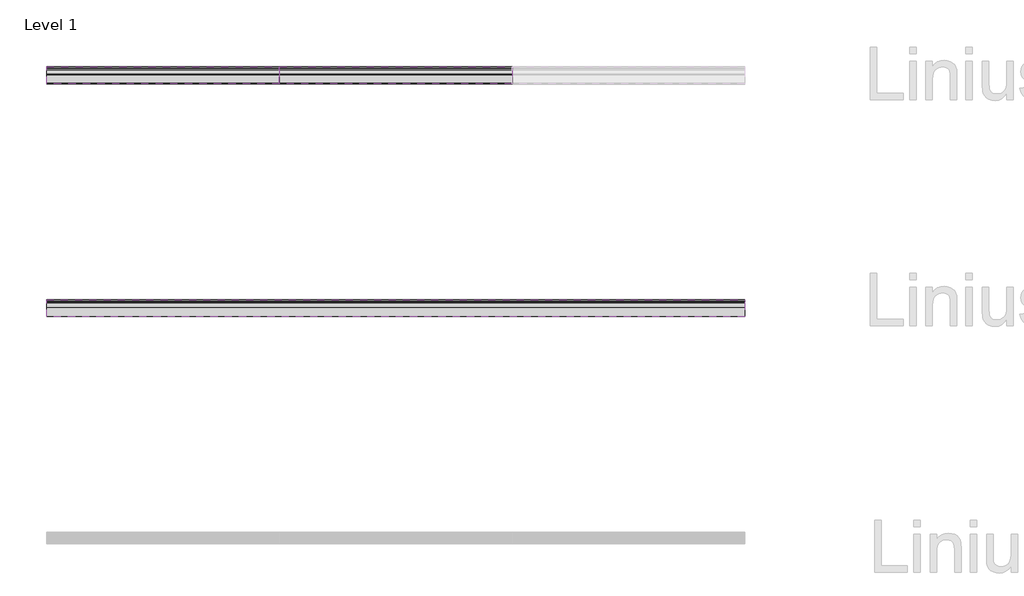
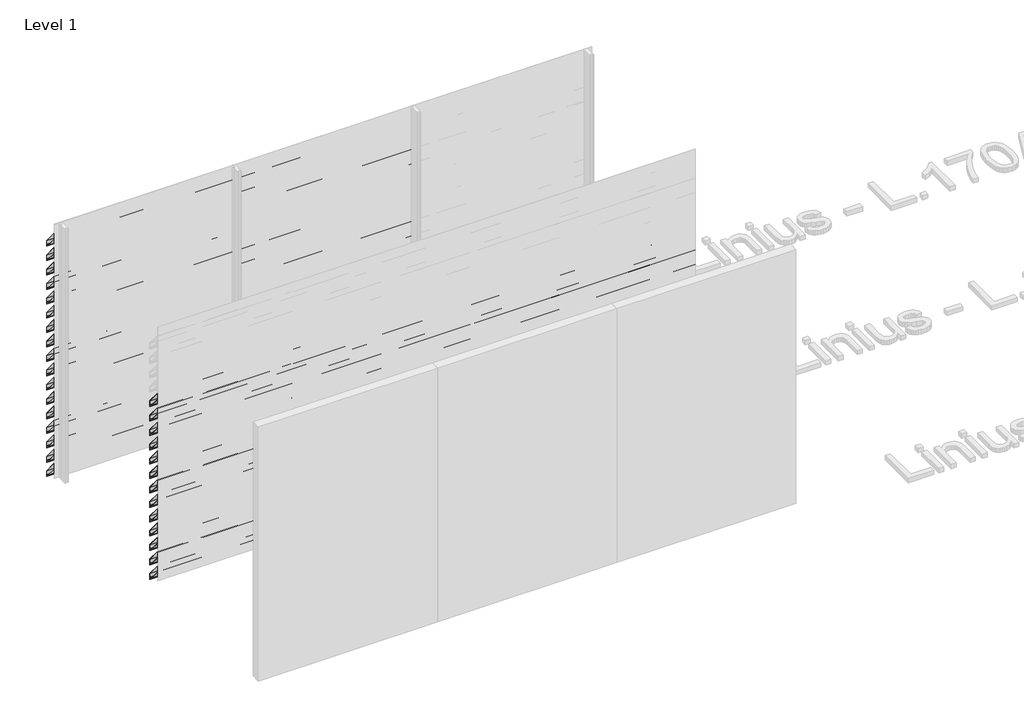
# One storey, part 21 of 121: 47 proxies.
"""IFC4 building model written with IfcOpenShell, lengths in millimetres."""

from ifc_helpers import new_model, si_unit, frame, origin, place, context, project, spatial, polyline, outline, extrude, element, save

model = new_model("IFC4")

# Units and contexts
model_context = context("Model", 3, world=origin())
ifc_project = project(units=[si_unit("LENGTHUNIT", "METRE", prefix="MILLI")], contexts=[model_context])

# Site, building, storey
site = spatial("IfcSite", under=ifc_project)
building = spatial("IfcBuilding", under=site)
storey = spatial("IfcBuildingStorey", under=building, Name="Level 1", Elevation=0.0)

# Proxies
placement = place(None, origin())
element("IfcBuildingElementProxy", 1, Name="Wall Sweeps", at=placement, inside=storey, context=model_context, shape_type="SweptSolid", body=[
    extrude(outline(polyline([(14130.0540136, 2720.0), (14130.0540136, 2651.0), (14127.5540136, 2652.1657691), (14127.5540136, 2665.7059843), (14110.8041465, 2685.6676986), (14100.1189071, 2685.6676986), (13983.0540136, 2825.1802059), (13983.0540136, 2890.0), (13987.4070763, 2890.0), (14130.0540136, 2720.0)]), holes=[polyline([(13986.5210918, 2888.1), (13984.9540136, 2888.1), (13984.9540136, 2825.8717493), (14101.0048916, 2687.5676986), (14111.6901311, 2687.5676986), (14128.1540136, 2667.9468074), (14128.1540136, 2719.3084566), (13986.5210918, 2888.1)])]), frame((44966.6208097, 0.0, 0.0), z_axis=(1.0, 0.0, 0.0), x_axis=(0.0, 1.0, 0.0)), (0.0, 0.0, 1.0), 2000.0),
])
element("IfcBuildingElementProxy", 2, Name="Wall Sweeps", at=placement, inside=storey, context=model_context, shape_type="SweptSolid", body=[
    extrude(outline(polyline([(14130.0540136, 2550.0), (14130.0540136, 2481.0), (14127.5540136, 2482.1657691), (14127.5540136, 2495.7059843), (14110.8041465, 2515.6676986), (14100.1189071, 2515.6676986), (13983.0540136, 2655.1802059), (13983.0540136, 2720.0), (13987.4070763, 2720.0), (14130.0540136, 2550.0)]), holes=[polyline([(13986.5210918, 2718.1), (13984.9540136, 2718.1), (13984.9540136, 2655.8717493), (14101.0048916, 2517.5676986), (14111.6901311, 2517.5676986), (14128.1540136, 2497.9468074), (14128.1540136, 2549.3084566), (13986.5210918, 2718.1)])]), frame((44966.6208097, 0.0, 0.0), z_axis=(1.0, 0.0, 0.0), x_axis=(0.0, 1.0, 0.0)), (0.0, 0.0, 1.0), 2000.0),
])
element("IfcBuildingElementProxy", 3, Name="Wall Sweeps", at=placement, inside=storey, context=model_context, shape_type="SweptSolid", body=[
    extrude(outline(polyline([(14130.0540136, 2380.0), (14130.0540136, 2311.0), (14127.5540136, 2312.1657691), (14127.5540136, 2325.7059843), (14110.8041465, 2345.6676986), (14100.1189071, 2345.6676986), (13983.0540136, 2485.1802059), (13983.0540136, 2550.0), (13987.4070763, 2550.0), (14130.0540136, 2380.0)]), holes=[polyline([(13986.5210918, 2548.1), (13984.9540136, 2548.1), (13984.9540136, 2485.8717493), (14101.0048916, 2347.5676986), (14111.6901311, 2347.5676986), (14128.1540136, 2327.9468074), (14128.1540136, 2379.3084566), (13986.5210918, 2548.1)])]), frame((44966.6208097, 0.0, 0.0), z_axis=(1.0, 0.0, 0.0), x_axis=(0.0, 1.0, 0.0)), (0.0, 0.0, 1.0), 2000.0),
])
element("IfcBuildingElementProxy", 4, Name="Wall Sweeps", at=placement, inside=storey, context=model_context, shape_type="SweptSolid", body=[
    extrude(outline(polyline([(14130.0540136, 2210.0), (14130.0540136, 2141.0), (14127.5540136, 2142.1657691), (14127.5540136, 2155.7059843), (14110.8041465, 2175.6676986), (14100.1189071, 2175.6676986), (13983.0540136, 2315.1802059), (13983.0540136, 2380.0), (13987.4070763, 2380.0), (14130.0540136, 2210.0)]), holes=[polyline([(13986.5210918, 2378.1), (13984.9540136, 2378.1), (13984.9540136, 2315.8717493), (14101.0048916, 2177.5676986), (14111.6901311, 2177.5676986), (14128.1540136, 2157.9468074), (14128.1540136, 2209.3084566), (13986.5210918, 2378.1)])]), frame((44966.6208097, 0.0, 0.0), z_axis=(1.0, 0.0, 0.0), x_axis=(0.0, 1.0, 0.0)), (0.0, 0.0, 1.0), 2000.0),
])
element("IfcBuildingElementProxy", 5, Name="Wall Sweeps", at=placement, inside=storey, context=model_context, shape_type="SweptSolid", body=[
    extrude(outline(polyline([(14130.0540136, 2040.0), (14130.0540136, 1971.0), (14127.5540136, 1972.1657691), (14127.5540136, 1985.7059843), (14110.8041465, 2005.6676986), (14100.1189071, 2005.6676986), (13983.0540136, 2145.1802059), (13983.0540136, 2210.0), (13987.4070763, 2210.0), (14130.0540136, 2040.0)]), holes=[polyline([(13986.5210918, 2208.1), (13984.9540136, 2208.1), (13984.9540136, 2145.8717493), (14101.0048916, 2007.5676986), (14111.6901311, 2007.5676986), (14128.1540136, 1987.9468074), (14128.1540136, 2039.3084566), (13986.5210918, 2208.1)])]), frame((44966.6208097, 0.0, 0.0), z_axis=(1.0, 0.0, 0.0), x_axis=(0.0, 1.0, 0.0)), (0.0, 0.0, 1.0), 2000.0),
])
element("IfcBuildingElementProxy", 6, Name="Wall Sweeps", at=placement, inside=storey, context=model_context, shape_type="SweptSolid", body=[
    extrude(outline(polyline([(14130.0540136, 1870.0), (14130.0540136, 1801.0), (14127.5540136, 1802.1657691), (14127.5540136, 1815.7059843), (14110.8041465, 1835.6676986), (14100.1189071, 1835.6676986), (13983.0540136, 1975.1802059), (13983.0540136, 2040.0), (13987.4070763, 2040.0), (14130.0540136, 1870.0)]), holes=[polyline([(13986.5210918, 2038.1), (13984.9540136, 2038.1), (13984.9540136, 1975.8717493), (14101.0048916, 1837.5676986), (14111.6901311, 1837.5676986), (14128.1540136, 1817.9468074), (14128.1540136, 1869.3084566), (13986.5210918, 2038.1)])]), frame((44966.6208097, 0.0, 0.0), z_axis=(1.0, 0.0, 0.0), x_axis=(0.0, 1.0, 0.0)), (0.0, 0.0, 1.0), 2000.0),
])
element("IfcBuildingElementProxy", 7, Name="Wall Sweeps", at=placement, inside=storey, context=model_context, shape_type="SweptSolid", body=[
    extrude(outline(polyline([(14130.0540136, 1700.0), (14130.0540136, 1631.0), (14127.5540136, 1632.1657691), (14127.5540136, 1645.7059843), (14110.8041465, 1665.6676986), (14100.1189071, 1665.6676986), (13983.0540136, 1805.1802059), (13983.0540136, 1870.0), (13987.4070763, 1870.0), (14130.0540136, 1700.0)]), holes=[polyline([(13986.5210918, 1868.1), (13984.9540136, 1868.1), (13984.9540136, 1805.8717493), (14101.0048916, 1667.5676986), (14111.6901311, 1667.5676986), (14128.1540136, 1647.9468074), (14128.1540136, 1699.3084566), (13986.5210918, 1868.1)])]), frame((44966.6208097, 0.0, 0.0), z_axis=(1.0, 0.0, 0.0), x_axis=(0.0, 1.0, 0.0)), (0.0, 0.0, 1.0), 2000.0),
])
element("IfcBuildingElementProxy", 8, Name="Wall Sweeps", at=placement, inside=storey, context=model_context, shape_type="SweptSolid", body=[
    extrude(outline(polyline([(14130.0540136, 1530.0), (14130.0540136, 1461.0), (14127.5540136, 1462.1657691), (14127.5540136, 1475.7059843), (14110.8041465, 1495.6676986), (14100.1189071, 1495.6676986), (13983.0540136, 1635.1802059), (13983.0540136, 1700.0), (13987.4070763, 1700.0), (14130.0540136, 1530.0)]), holes=[polyline([(13986.5210918, 1698.1), (13984.9540136, 1698.1), (13984.9540136, 1635.8717493), (14101.0048916, 1497.5676986), (14111.6901311, 1497.5676986), (14128.1540136, 1477.9468074), (14128.1540136, 1529.3084566), (13986.5210918, 1698.1)])]), frame((44966.6208097, 0.0, 0.0), z_axis=(1.0, 0.0, 0.0), x_axis=(0.0, 1.0, 0.0)), (0.0, 0.0, 1.0), 2000.0),
])
element("IfcBuildingElementProxy", 9, Name="Wall Sweeps", at=placement, inside=storey, context=model_context, shape_type="SweptSolid", body=[
    extrude(outline(polyline([(14130.0540136, 1360.0), (14130.0540136, 1291.0), (14127.5540136, 1292.1657691), (14127.5540136, 1305.7059843), (14110.8041465, 1325.6676986), (14100.1189071, 1325.6676986), (13983.0540136, 1465.1802059), (13983.0540136, 1530.0), (13987.4070763, 1530.0), (14130.0540136, 1360.0)]), holes=[polyline([(13986.5210918, 1528.1), (13984.9540136, 1528.1), (13984.9540136, 1465.8717493), (14101.0048916, 1327.5676986), (14111.6901311, 1327.5676986), (14128.1540136, 1307.9468074), (14128.1540136, 1359.3084566), (13986.5210918, 1528.1)])]), frame((44966.6208097, 0.0, 0.0), z_axis=(1.0, 0.0, 0.0), x_axis=(0.0, 1.0, 0.0)), (0.0, 0.0, 1.0), 2000.0),
])
element("IfcBuildingElementProxy", 10, Name="Wall Sweeps", at=placement, inside=storey, context=model_context, shape_type="SweptSolid", body=[
    extrude(outline(polyline([(14130.0540136, 1190.0), (14130.0540136, 1121.0), (14127.5540136, 1122.1657691), (14127.5540136, 1135.7059843), (14110.8041465, 1155.6676986), (14100.1189071, 1155.6676986), (13983.0540136, 1295.1802059), (13983.0540136, 1360.0), (13987.4070763, 1360.0), (14130.0540136, 1190.0)]), holes=[polyline([(13986.5210918, 1358.1), (13984.9540136, 1358.1), (13984.9540136, 1295.8717493), (14101.0048916, 1157.5676986), (14111.6901311, 1157.5676986), (14128.1540136, 1137.9468074), (14128.1540136, 1189.3084566), (13986.5210918, 1358.1)])]), frame((44966.6208097, 0.0, 0.0), z_axis=(1.0, 0.0, 0.0), x_axis=(0.0, 1.0, 0.0)), (0.0, 0.0, 1.0), 2000.0),
])
element("IfcBuildingElementProxy", 11, Name="Wall Sweeps", at=placement, inside=storey, context=model_context, shape_type="SweptSolid", body=[
    extrude(outline(polyline([(14130.0540136, 1020.0), (14130.0540136, 951.0), (14127.5540136, 952.1657691), (14127.5540136, 965.7059843), (14110.8041465, 985.6676986), (14100.1189071, 985.6676986), (13983.0540136, 1125.1802059), (13983.0540136, 1190.0), (13987.4070763, 1190.0), (14130.0540136, 1020.0)]), holes=[polyline([(13986.5210918, 1188.1), (13984.9540136, 1188.1), (13984.9540136, 1125.8717493), (14101.0048916, 987.5676986), (14111.6901311, 987.5676986), (14128.1540136, 967.9468074), (14128.1540136, 1019.3084566), (13986.5210918, 1188.1)])]), frame((44966.6208097, 0.0, 0.0), z_axis=(1.0, 0.0, 0.0), x_axis=(0.0, 1.0, 0.0)), (0.0, 0.0, 1.0), 2000.0),
])
element("IfcBuildingElementProxy", 12, Name="Wall Sweeps", at=placement, inside=storey, context=model_context, shape_type="SweptSolid", body=[
    extrude(outline(polyline([(14130.0540136, 850.0), (14130.0540136, 781.0), (14127.5540136, 782.1657691), (14127.5540136, 795.7059843), (14110.8041465, 815.6676986), (14100.1189071, 815.6676986), (13983.0540136, 955.1802059), (13983.0540136, 1020.0), (13987.4070763, 1020.0), (14130.0540136, 850.0)]), holes=[polyline([(13986.5210918, 1018.1), (13984.9540136, 1018.1), (13984.9540136, 955.8717493), (14101.0048916, 817.5676986), (14111.6901311, 817.5676986), (14128.1540136, 797.9468074), (14128.1540136, 849.3084566), (13986.5210918, 1018.1)])]), frame((44966.6208097, 0.0, 0.0), z_axis=(1.0, 0.0, 0.0), x_axis=(0.0, 1.0, 0.0)), (0.0, 0.0, 1.0), 2000.0),
])
element("IfcBuildingElementProxy", 13, Name="Wall Sweeps", at=placement, inside=storey, context=model_context, shape_type="SweptSolid", body=[
    extrude(outline(polyline([(14130.0540136, 680.0), (14130.0540136, 611.0), (14127.5540136, 612.1657691), (14127.5540136, 625.7059843), (14110.8041465, 645.6676986), (14100.1189071, 645.6676986), (13983.0540136, 785.1802059), (13983.0540136, 850.0), (13987.4070763, 850.0), (14130.0540136, 680.0)]), holes=[polyline([(13986.5210918, 848.1), (13984.9540136, 848.1), (13984.9540136, 785.8717493), (14101.0048916, 647.5676986), (14111.6901311, 647.5676986), (14128.1540136, 627.9468074), (14128.1540136, 679.3084566), (13986.5210918, 848.1)])]), frame((44966.6208097, 0.0, 0.0), z_axis=(1.0, 0.0, 0.0), x_axis=(0.0, 1.0, 0.0)), (0.0, 0.0, 1.0), 2000.0),
])
element("IfcBuildingElementProxy", 14, Name="Wall Sweeps", at=placement, inside=storey, context=model_context, shape_type="SweptSolid", body=[
    extrude(outline(polyline([(14130.0540136, 510.0), (14130.0540136, 441.0), (14127.5540136, 442.1657691), (14127.5540136, 455.7059843), (14110.8041465, 475.6676986), (14100.1189071, 475.6676986), (13983.0540136, 615.1802059), (13983.0540136, 680.0), (13987.4070763, 680.0), (14130.0540136, 510.0)]), holes=[polyline([(13986.5210918, 678.1), (13984.9540136, 678.1), (13984.9540136, 615.8717493), (14101.0048916, 477.5676986), (14111.6901311, 477.5676986), (14128.1540136, 457.9468074), (14128.1540136, 509.3084566), (13986.5210918, 678.1)])]), frame((44966.6208097, 0.0, 0.0), z_axis=(1.0, 0.0, 0.0), x_axis=(0.0, 1.0, 0.0)), (0.0, 0.0, 1.0), 2000.0),
])
element("IfcBuildingElementProxy", 15, Name="Wall Sweeps", at=placement, inside=storey, context=model_context, shape_type="SweptSolid", body=[
    extrude(outline(polyline([(14130.0540136, 340.0), (14130.0540136, 271.0), (14127.5540136, 272.1657691), (14127.5540136, 285.7059843), (14110.8041465, 305.6676986), (14100.1189071, 305.6676986), (13983.0540136, 445.1802059), (13983.0540136, 510.0), (13987.4070763, 510.0), (14130.0540136, 340.0)]), holes=[polyline([(13986.5210918, 508.1), (13984.9540136, 508.1), (13984.9540136, 445.8717493), (14101.0048916, 307.5676986), (14111.6901311, 307.5676986), (14128.1540136, 287.9468074), (14128.1540136, 339.3084566), (13986.5210918, 508.1)])]), frame((44966.6208097, 0.0, 0.0), z_axis=(1.0, 0.0, 0.0), x_axis=(0.0, 1.0, 0.0)), (0.0, 0.0, 1.0), 2000.0),
])
element("IfcBuildingElementProxy", 16, Name="Wall Sweeps", at=placement, inside=storey, context=model_context, shape_type="SweptSolid", body=[
    extrude(outline(polyline([(14130.0540136, 170.0), (14130.0540136, 101.0), (14127.5540136, 102.1657691), (14127.5540136, 115.7059843), (14110.8041465, 135.6676986), (14100.1189071, 135.6676986), (13983.0540136, 275.1802059), (13983.0540136, 340.0), (13987.4070763, 340.0), (14130.0540136, 170.0)]), holes=[polyline([(13986.5210918, 338.1), (13984.9540136, 338.1), (13984.9540136, 275.8717493), (14101.0048916, 137.5676986), (14111.6901311, 137.5676986), (14128.1540136, 117.9468074), (14128.1540136, 169.3084566), (13986.5210918, 338.1)])]), frame((44966.6208097, 0.0, 0.0), z_axis=(1.0, 0.0, 0.0), x_axis=(0.0, 1.0, 0.0)), (0.0, 0.0, 1.0), 2000.0),
])
element("IfcBuildingElementProxy", 17, Name="Wall Sweeps", at=placement, inside=storey, context=model_context, shape_type="SweptSolid", body=[
    extrude(outline(polyline([(14130.0540136, 0.0), (14130.0540136, -69.0), (14127.5540136, -67.8342309), (14127.5540136, -54.2940157), (14110.8041465, -34.3323014), (14100.1189071, -34.3323014), (13983.0540136, 105.1802059), (13983.0540136, 170.0), (13987.4070763, 170.0), (14130.0540136, 0.0)]), holes=[polyline([(13986.5210918, 168.1), (13984.9540136, 168.1), (13984.9540136, 105.8717493), (14101.0048916, -32.4323014), (14111.6901311, -32.4323014), (14128.1540136, -52.0531926), (14128.1540136, -0.6915434), (13986.5210918, 168.1)])]), frame((44966.6208097, 0.0, 0.0), z_axis=(1.0, 0.0, 0.0), x_axis=(0.0, 1.0, 0.0)), (0.0, 0.0, 1.0), 2000.0),
])
element("IfcBuildingElementProxy", 18, Name="Wall Sweeps", at=placement, inside=storey, context=model_context, shape_type="SweptSolid", body=[
    extrude(outline(polyline([(14130.0540136, 2720.0), (14130.0540136, 2651.0), (14127.5540136, 2652.1657691), (14127.5540136, 2665.7059843), (14110.8041465, 2685.6676986), (14100.1189071, 2685.6676986), (13983.0540136, 2825.1802059), (13983.0540136, 2890.0), (13987.4070763, 2890.0), (14130.0540136, 2720.0)]), holes=[polyline([(13986.5210918, 2888.1), (13984.9540136, 2888.1), (13984.9540136, 2825.8717493), (14101.0048916, 2687.5676986), (14111.6901311, 2687.5676986), (14128.1540136, 2667.9468074), (14128.1540136, 2719.3084566), (13986.5210918, 2888.1)])]), frame((46966.6208097, 0.0, 0.0), z_axis=(1.0, 0.0, 0.0), x_axis=(0.0, 1.0, 0.0)), (0.0, 0.0, 1.0), 2000.0),
])
element("IfcBuildingElementProxy", 19, Name="Wall Sweeps", at=placement, inside=storey, context=model_context, shape_type="SweptSolid", body=[
    extrude(outline(polyline([(14130.0540136, 2550.0), (14130.0540136, 2481.0), (14127.5540136, 2482.1657691), (14127.5540136, 2495.7059843), (14110.8041465, 2515.6676986), (14100.1189071, 2515.6676986), (13983.0540136, 2655.1802059), (13983.0540136, 2720.0), (13987.4070763, 2720.0), (14130.0540136, 2550.0)]), holes=[polyline([(13986.5210918, 2718.1), (13984.9540136, 2718.1), (13984.9540136, 2655.8717493), (14101.0048916, 2517.5676986), (14111.6901311, 2517.5676986), (14128.1540136, 2497.9468074), (14128.1540136, 2549.3084566), (13986.5210918, 2718.1)])]), frame((46966.6208097, 0.0, 0.0), z_axis=(1.0, 0.0, 0.0), x_axis=(0.0, 1.0, 0.0)), (0.0, 0.0, 1.0), 2000.0),
])
element("IfcBuildingElementProxy", 20, Name="Wall Sweeps", at=placement, inside=storey, context=model_context, shape_type="SweptSolid", body=[
    extrude(outline(polyline([(14130.0540136, 2380.0), (14130.0540136, 2311.0), (14127.5540136, 2312.1657691), (14127.5540136, 2325.7059843), (14110.8041465, 2345.6676986), (14100.1189071, 2345.6676986), (13983.0540136, 2485.1802059), (13983.0540136, 2550.0), (13987.4070763, 2550.0), (14130.0540136, 2380.0)]), holes=[polyline([(13986.5210918, 2548.1), (13984.9540136, 2548.1), (13984.9540136, 2485.8717493), (14101.0048916, 2347.5676986), (14111.6901311, 2347.5676986), (14128.1540136, 2327.9468074), (14128.1540136, 2379.3084566), (13986.5210918, 2548.1)])]), frame((46966.6208097, 0.0, 0.0), z_axis=(1.0, 0.0, 0.0), x_axis=(0.0, 1.0, 0.0)), (0.0, 0.0, 1.0), 2000.0),
])
element("IfcBuildingElementProxy", 21, Name="Wall Sweeps", at=placement, inside=storey, context=model_context, shape_type="SweptSolid", body=[
    extrude(outline(polyline([(14130.0540136, 2210.0), (14130.0540136, 2141.0), (14127.5540136, 2142.1657691), (14127.5540136, 2155.7059843), (14110.8041465, 2175.6676986), (14100.1189071, 2175.6676986), (13983.0540136, 2315.1802059), (13983.0540136, 2380.0), (13987.4070763, 2380.0), (14130.0540136, 2210.0)]), holes=[polyline([(13986.5210918, 2378.1), (13984.9540136, 2378.1), (13984.9540136, 2315.8717493), (14101.0048916, 2177.5676986), (14111.6901311, 2177.5676986), (14128.1540136, 2157.9468074), (14128.1540136, 2209.3084566), (13986.5210918, 2378.1)])]), frame((46966.6208097, 0.0, 0.0), z_axis=(1.0, 0.0, 0.0), x_axis=(0.0, 1.0, 0.0)), (0.0, 0.0, 1.0), 2000.0),
])
element("IfcBuildingElementProxy", 22, Name="Wall Sweeps", at=placement, inside=storey, context=model_context, shape_type="SweptSolid", body=[
    extrude(outline(polyline([(14130.0540136, 2040.0), (14130.0540136, 1971.0), (14127.5540136, 1972.1657691), (14127.5540136, 1985.7059843), (14110.8041465, 2005.6676986), (14100.1189071, 2005.6676986), (13983.0540136, 2145.1802059), (13983.0540136, 2210.0), (13987.4070763, 2210.0), (14130.0540136, 2040.0)]), holes=[polyline([(13986.5210918, 2208.1), (13984.9540136, 2208.1), (13984.9540136, 2145.8717493), (14101.0048916, 2007.5676986), (14111.6901311, 2007.5676986), (14128.1540136, 1987.9468074), (14128.1540136, 2039.3084566), (13986.5210918, 2208.1)])]), frame((46966.6208097, 0.0, 0.0), z_axis=(1.0, 0.0, 0.0), x_axis=(0.0, 1.0, 0.0)), (0.0, 0.0, 1.0), 2000.0),
])
element("IfcBuildingElementProxy", 23, Name="Wall Sweeps", at=placement, inside=storey, context=model_context, shape_type="SweptSolid", body=[
    extrude(outline(polyline([(14130.0540136, 1870.0), (14130.0540136, 1801.0), (14127.5540136, 1802.1657691), (14127.5540136, 1815.7059843), (14110.8041465, 1835.6676986), (14100.1189071, 1835.6676986), (13983.0540136, 1975.1802059), (13983.0540136, 2040.0), (13987.4070763, 2040.0), (14130.0540136, 1870.0)]), holes=[polyline([(13986.5210918, 2038.1), (13984.9540136, 2038.1), (13984.9540136, 1975.8717493), (14101.0048916, 1837.5676986), (14111.6901311, 1837.5676986), (14128.1540136, 1817.9468074), (14128.1540136, 1869.3084566), (13986.5210918, 2038.1)])]), frame((46966.6208097, 0.0, 0.0), z_axis=(1.0, 0.0, 0.0), x_axis=(0.0, 1.0, 0.0)), (0.0, 0.0, 1.0), 2000.0),
])
element("IfcBuildingElementProxy", 24, Name="Wall Sweeps", at=placement, inside=storey, context=model_context, shape_type="SweptSolid", body=[
    extrude(outline(polyline([(14130.0540136, 1700.0), (14130.0540136, 1631.0), (14127.5540136, 1632.1657691), (14127.5540136, 1645.7059843), (14110.8041465, 1665.6676986), (14100.1189071, 1665.6676986), (13983.0540136, 1805.1802059), (13983.0540136, 1870.0), (13987.4070763, 1870.0), (14130.0540136, 1700.0)]), holes=[polyline([(13986.5210918, 1868.1), (13984.9540136, 1868.1), (13984.9540136, 1805.8717493), (14101.0048916, 1667.5676986), (14111.6901311, 1667.5676986), (14128.1540136, 1647.9468074), (14128.1540136, 1699.3084566), (13986.5210918, 1868.1)])]), frame((46966.6208097, 0.0, 0.0), z_axis=(1.0, 0.0, 0.0), x_axis=(0.0, 1.0, 0.0)), (0.0, 0.0, 1.0), 2000.0),
])
element("IfcBuildingElementProxy", 25, Name="Wall Sweeps", at=placement, inside=storey, context=model_context, shape_type="SweptSolid", body=[
    extrude(outline(polyline([(14130.0540136, 1530.0), (14130.0540136, 1461.0), (14127.5540136, 1462.1657691), (14127.5540136, 1475.7059843), (14110.8041465, 1495.6676986), (14100.1189071, 1495.6676986), (13983.0540136, 1635.1802059), (13983.0540136, 1700.0), (13987.4070763, 1700.0), (14130.0540136, 1530.0)]), holes=[polyline([(13986.5210918, 1698.1), (13984.9540136, 1698.1), (13984.9540136, 1635.8717493), (14101.0048916, 1497.5676986), (14111.6901311, 1497.5676986), (14128.1540136, 1477.9468074), (14128.1540136, 1529.3084566), (13986.5210918, 1698.1)])]), frame((46966.6208097, 0.0, 0.0), z_axis=(1.0, 0.0, 0.0), x_axis=(0.0, 1.0, 0.0)), (0.0, 0.0, 1.0), 2000.0),
])
element("IfcBuildingElementProxy", 26, Name="Wall Sweeps", at=placement, inside=storey, context=model_context, shape_type="SweptSolid", body=[
    extrude(outline(polyline([(14130.0540136, 1360.0), (14130.0540136, 1291.0), (14127.5540136, 1292.1657691), (14127.5540136, 1305.7059843), (14110.8041465, 1325.6676986), (14100.1189071, 1325.6676986), (13983.0540136, 1465.1802059), (13983.0540136, 1530.0), (13987.4070763, 1530.0), (14130.0540136, 1360.0)]), holes=[polyline([(13986.5210918, 1528.1), (13984.9540136, 1528.1), (13984.9540136, 1465.8717493), (14101.0048916, 1327.5676986), (14111.6901311, 1327.5676986), (14128.1540136, 1307.9468074), (14128.1540136, 1359.3084566), (13986.5210918, 1528.1)])]), frame((46966.6208097, 0.0, 0.0), z_axis=(1.0, 0.0, 0.0), x_axis=(0.0, 1.0, 0.0)), (0.0, 0.0, 1.0), 2000.0),
])
element("IfcBuildingElementProxy", 27, Name="Wall Sweeps", at=placement, inside=storey, context=model_context, shape_type="SweptSolid", body=[
    extrude(outline(polyline([(14130.0540136, 1190.0), (14130.0540136, 1121.0), (14127.5540136, 1122.1657691), (14127.5540136, 1135.7059843), (14110.8041465, 1155.6676986), (14100.1189071, 1155.6676986), (13983.0540136, 1295.1802059), (13983.0540136, 1360.0), (13987.4070763, 1360.0), (14130.0540136, 1190.0)]), holes=[polyline([(13986.5210918, 1358.1), (13984.9540136, 1358.1), (13984.9540136, 1295.8717493), (14101.0048916, 1157.5676986), (14111.6901311, 1157.5676986), (14128.1540136, 1137.9468074), (14128.1540136, 1189.3084566), (13986.5210918, 1358.1)])]), frame((46966.6208097, 0.0, 0.0), z_axis=(1.0, 0.0, 0.0), x_axis=(0.0, 1.0, 0.0)), (0.0, 0.0, 1.0), 2000.0),
])
element("IfcBuildingElementProxy", 28, Name="Wall Sweeps", at=placement, inside=storey, context=model_context, shape_type="SweptSolid", body=[
    extrude(outline(polyline([(14130.0540136, 1020.0), (14130.0540136, 951.0), (14127.5540136, 952.1657691), (14127.5540136, 965.7059843), (14110.8041465, 985.6676986), (14100.1189071, 985.6676986), (13983.0540136, 1125.1802059), (13983.0540136, 1190.0), (13987.4070763, 1190.0), (14130.0540136, 1020.0)]), holes=[polyline([(13986.5210918, 1188.1), (13984.9540136, 1188.1), (13984.9540136, 1125.8717493), (14101.0048916, 987.5676986), (14111.6901311, 987.5676986), (14128.1540136, 967.9468074), (14128.1540136, 1019.3084566), (13986.5210918, 1188.1)])]), frame((46966.6208097, 0.0, 0.0), z_axis=(1.0, 0.0, 0.0), x_axis=(0.0, 1.0, 0.0)), (0.0, 0.0, 1.0), 2000.0),
])
element("IfcBuildingElementProxy", 29, Name="Wall Sweeps", at=placement, inside=storey, context=model_context, shape_type="SweptSolid", body=[
    extrude(outline(polyline([(14130.0540136, 850.0), (14130.0540136, 781.0), (14127.5540136, 782.1657691), (14127.5540136, 795.7059843), (14110.8041465, 815.6676986), (14100.1189071, 815.6676986), (13983.0540136, 955.1802059), (13983.0540136, 1020.0), (13987.4070763, 1020.0), (14130.0540136, 850.0)]), holes=[polyline([(13986.5210918, 1018.1), (13984.9540136, 1018.1), (13984.9540136, 955.8717493), (14101.0048916, 817.5676986), (14111.6901311, 817.5676986), (14128.1540136, 797.9468074), (14128.1540136, 849.3084566), (13986.5210918, 1018.1)])]), frame((46966.6208097, 0.0, 0.0), z_axis=(1.0, 0.0, 0.0), x_axis=(0.0, 1.0, 0.0)), (0.0, 0.0, 1.0), 2000.0),
])
element("IfcBuildingElementProxy", 30, Name="Wall Sweeps", at=placement, inside=storey, context=model_context, shape_type="SweptSolid", body=[
    extrude(outline(polyline([(14130.0540136, 680.0), (14130.0540136, 611.0), (14127.5540136, 612.1657691), (14127.5540136, 625.7059843), (14110.8041465, 645.6676986), (14100.1189071, 645.6676986), (13983.0540136, 785.1802059), (13983.0540136, 850.0), (13987.4070763, 850.0), (14130.0540136, 680.0)]), holes=[polyline([(13986.5210918, 848.1), (13984.9540136, 848.1), (13984.9540136, 785.8717493), (14101.0048916, 647.5676986), (14111.6901311, 647.5676986), (14128.1540136, 627.9468074), (14128.1540136, 679.3084566), (13986.5210918, 848.1)])]), frame((46966.6208097, 0.0, 0.0), z_axis=(1.0, 0.0, 0.0), x_axis=(0.0, 1.0, 0.0)), (0.0, 0.0, 1.0), 2000.0),
])
element("IfcBuildingElementProxy", 31, Name="Wall Sweeps", at=placement, inside=storey, context=model_context, shape_type="SweptSolid", body=[
    extrude(outline(polyline([(14130.0540136, 510.0), (14130.0540136, 441.0), (14127.5540136, 442.1657691), (14127.5540136, 455.7059843), (14110.8041465, 475.6676986), (14100.1189071, 475.6676986), (13983.0540136, 615.1802059), (13983.0540136, 680.0), (13987.4070763, 680.0), (14130.0540136, 510.0)]), holes=[polyline([(13986.5210918, 678.1), (13984.9540136, 678.1), (13984.9540136, 615.8717493), (14101.0048916, 477.5676986), (14111.6901311, 477.5676986), (14128.1540136, 457.9468074), (14128.1540136, 509.3084566), (13986.5210918, 678.1)])]), frame((46966.6208097, 0.0, 0.0), z_axis=(1.0, 0.0, 0.0), x_axis=(0.0, 1.0, 0.0)), (0.0, 0.0, 1.0), 2000.0),
])
element("IfcBuildingElementProxy", 32, Name="Wall Sweeps", at=placement, inside=storey, context=model_context, shape_type="SweptSolid", body=[
    extrude(outline(polyline([(14130.0540136, 340.0), (14130.0540136, 271.0), (14127.5540136, 272.1657691), (14127.5540136, 285.7059843), (14110.8041465, 305.6676986), (14100.1189071, 305.6676986), (13983.0540136, 445.1802059), (13983.0540136, 510.0), (13987.4070763, 510.0), (14130.0540136, 340.0)]), holes=[polyline([(13986.5210918, 508.1), (13984.9540136, 508.1), (13984.9540136, 445.8717493), (14101.0048916, 307.5676986), (14111.6901311, 307.5676986), (14128.1540136, 287.9468074), (14128.1540136, 339.3084566), (13986.5210918, 508.1)])]), frame((46966.6208097, 0.0, 0.0), z_axis=(1.0, 0.0, 0.0), x_axis=(0.0, 1.0, 0.0)), (0.0, 0.0, 1.0), 2000.0),
])
element("IfcBuildingElementProxy", 33, Name="Wall Sweeps", at=placement, inside=storey, context=model_context, shape_type="SweptSolid", body=[
    extrude(outline(polyline([(14130.0540136, 170.0), (14130.0540136, 101.0), (14127.5540136, 102.1657691), (14127.5540136, 115.7059843), (14110.8041465, 135.6676986), (14100.1189071, 135.6676986), (13983.0540136, 275.1802059), (13983.0540136, 340.0), (13987.4070763, 340.0), (14130.0540136, 170.0)]), holes=[polyline([(13986.5210918, 338.1), (13984.9540136, 338.1), (13984.9540136, 275.8717493), (14101.0048916, 137.5676986), (14111.6901311, 137.5676986), (14128.1540136, 117.9468074), (14128.1540136, 169.3084566), (13986.5210918, 338.1)])]), frame((46966.6208097, 0.0, 0.0), z_axis=(1.0, 0.0, 0.0), x_axis=(0.0, 1.0, 0.0)), (0.0, 0.0, 1.0), 2000.0),
])
element("IfcBuildingElementProxy", 34, Name="Wall Sweeps", at=placement, inside=storey, context=model_context, shape_type="SweptSolid", body=[
    extrude(outline(polyline([(14130.0540136, 0.0), (14130.0540136, -69.0), (14127.5540136, -67.8342309), (14127.5540136, -54.2940157), (14110.8041465, -34.3323014), (14100.1189071, -34.3323014), (13983.0540136, 105.1802059), (13983.0540136, 170.0), (13987.4070763, 170.0), (14130.0540136, 0.0)]), holes=[polyline([(13986.5210918, 168.1), (13984.9540136, 168.1), (13984.9540136, 105.8717493), (14101.0048916, -32.4323014), (14111.6901311, -32.4323014), (14128.1540136, -52.0531926), (14128.1540136, -0.6915434), (13986.5210918, 168.1)])]), frame((46966.6208097, 0.0, 0.0), z_axis=(1.0, 0.0, 0.0), x_axis=(0.0, 1.0, 0.0)), (0.0, 0.0, 1.0), 2000.0),
])
element("IfcBuildingElementProxy", 35, Name="Wall Sweeps", at=placement, inside=storey, context=model_context, shape_type="SweptSolid", body=[
    extrude(outline(polyline([(12130.0540136, 2040.0), (12130.0540136, 1971.0), (12127.5540136, 1972.1657691), (12127.5540136, 1985.7059843), (12110.8041465, 2005.6676986), (12100.1189071, 2005.6676986), (11983.0540136, 2145.1802059), (11983.0540136, 2210.0), (11987.4070763, 2210.0), (12130.0540136, 2040.0)]), holes=[polyline([(11986.5210918, 2208.1), (11984.9540136, 2208.1), (11984.9540136, 2145.8717493), (12101.0048916, 2007.5676986), (12111.6901311, 2007.5676986), (12128.1540136, 1987.9468074), (12128.1540136, 2039.3084566), (11986.5210918, 2208.1)])]), frame((44966.6208097, 0.0, 0.0), z_axis=(1.0, 0.0, 0.0), x_axis=(0.0, 1.0, 0.0)), (0.0, 0.0, 1.0), 6000.0),
])
element("IfcBuildingElementProxy", 36, Name="Wall Sweeps", at=placement, inside=storey, context=model_context, shape_type="SweptSolid", body=[
    extrude(outline(polyline([(12130.0540136, 1870.0), (12130.0540136, 1801.0), (12127.5540136, 1802.1657691), (12127.5540136, 1815.7059843), (12110.8041465, 1835.6676986), (12100.1189071, 1835.6676986), (11983.0540136, 1975.1802059), (11983.0540136, 2040.0), (11987.4070763, 2040.0), (12130.0540136, 1870.0)]), holes=[polyline([(11986.5210918, 2038.1), (11984.9540136, 2038.1), (11984.9540136, 1975.8717493), (12101.0048916, 1837.5676986), (12111.6901311, 1837.5676986), (12128.1540136, 1817.9468074), (12128.1540136, 1869.3084566), (11986.5210918, 2038.1)])]), frame((44966.6208097, 0.0, 0.0), z_axis=(1.0, 0.0, 0.0), x_axis=(0.0, 1.0, 0.0)), (0.0, 0.0, 1.0), 6000.0),
])
element("IfcBuildingElementProxy", 37, Name="Wall Sweeps", at=placement, inside=storey, context=model_context, shape_type="SweptSolid", body=[
    extrude(outline(polyline([(12130.0540136, 1700.0), (12130.0540136, 1631.0), (12127.5540136, 1632.1657691), (12127.5540136, 1645.7059843), (12110.8041465, 1665.6676986), (12100.1189071, 1665.6676986), (11983.0540136, 1805.1802059), (11983.0540136, 1870.0), (11987.4070763, 1870.0), (12130.0540136, 1700.0)]), holes=[polyline([(11986.5210918, 1868.1), (11984.9540136, 1868.1), (11984.9540136, 1805.8717493), (12101.0048916, 1667.5676986), (12111.6901311, 1667.5676986), (12128.1540136, 1647.9468074), (12128.1540136, 1699.3084566), (11986.5210918, 1868.1)])]), frame((44966.6208097, 0.0, 0.0), z_axis=(1.0, 0.0, 0.0), x_axis=(0.0, 1.0, 0.0)), (0.0, 0.0, 1.0), 6000.0),
])
element("IfcBuildingElementProxy", 38, Name="Wall Sweeps", at=placement, inside=storey, context=model_context, shape_type="SweptSolid", body=[
    extrude(outline(polyline([(12130.0540136, 1530.0), (12130.0540136, 1461.0), (12127.5540136, 1462.1657691), (12127.5540136, 1475.7059843), (12110.8041465, 1495.6676986), (12100.1189071, 1495.6676986), (11983.0540136, 1635.1802059), (11983.0540136, 1700.0), (11987.4070763, 1700.0), (12130.0540136, 1530.0)]), holes=[polyline([(11986.5210918, 1698.1), (11984.9540136, 1698.1), (11984.9540136, 1635.8717493), (12101.0048916, 1497.5676986), (12111.6901311, 1497.5676986), (12128.1540136, 1477.9468074), (12128.1540136, 1529.3084566), (11986.5210918, 1698.1)])]), frame((44966.6208097, 0.0, 0.0), z_axis=(1.0, 0.0, 0.0), x_axis=(0.0, 1.0, 0.0)), (0.0, 0.0, 1.0), 6000.0),
])
element("IfcBuildingElementProxy", 39, Name="Wall Sweeps", at=placement, inside=storey, context=model_context, shape_type="SweptSolid", body=[
    extrude(outline(polyline([(12130.0540136, 1360.0), (12130.0540136, 1291.0), (12127.5540136, 1292.1657691), (12127.5540136, 1305.7059843), (12110.8041465, 1325.6676986), (12100.1189071, 1325.6676986), (11983.0540136, 1465.1802059), (11983.0540136, 1530.0), (11987.4070763, 1530.0), (12130.0540136, 1360.0)]), holes=[polyline([(11986.5210918, 1528.1), (11984.9540136, 1528.1), (11984.9540136, 1465.8717493), (12101.0048916, 1327.5676986), (12111.6901311, 1327.5676986), (12128.1540136, 1307.9468074), (12128.1540136, 1359.3084566), (11986.5210918, 1528.1)])]), frame((44966.6208097, 0.0, 0.0), z_axis=(1.0, 0.0, 0.0), x_axis=(0.0, 1.0, 0.0)), (0.0, 0.0, 1.0), 6000.0),
])
element("IfcBuildingElementProxy", 40, Name="Wall Sweeps", at=placement, inside=storey, context=model_context, shape_type="SweptSolid", body=[
    extrude(outline(polyline([(12130.0540136, 1190.0), (12130.0540136, 1121.0), (12127.5540136, 1122.1657691), (12127.5540136, 1135.7059843), (12110.8041465, 1155.6676986), (12100.1189071, 1155.6676986), (11983.0540136, 1295.1802059), (11983.0540136, 1360.0), (11987.4070763, 1360.0), (12130.0540136, 1190.0)]), holes=[polyline([(11986.5210918, 1358.1), (11984.9540136, 1358.1), (11984.9540136, 1295.8717493), (12101.0048916, 1157.5676986), (12111.6901311, 1157.5676986), (12128.1540136, 1137.9468074), (12128.1540136, 1189.3084566), (11986.5210918, 1358.1)])]), frame((44966.6208097, 0.0, 0.0), z_axis=(1.0, 0.0, 0.0), x_axis=(0.0, 1.0, 0.0)), (0.0, 0.0, 1.0), 6000.0),
])
element("IfcBuildingElementProxy", 41, Name="Wall Sweeps", at=placement, inside=storey, context=model_context, shape_type="SweptSolid", body=[
    extrude(outline(polyline([(12130.0540136, 1020.0), (12130.0540136, 951.0), (12127.5540136, 952.1657691), (12127.5540136, 965.7059843), (12110.8041465, 985.6676986), (12100.1189071, 985.6676986), (11983.0540136, 1125.1802059), (11983.0540136, 1190.0), (11987.4070763, 1190.0), (12130.0540136, 1020.0)]), holes=[polyline([(11986.5210918, 1188.1), (11984.9540136, 1188.1), (11984.9540136, 1125.8717493), (12101.0048916, 987.5676986), (12111.6901311, 987.5676986), (12128.1540136, 967.9468074), (12128.1540136, 1019.3084566), (11986.5210918, 1188.1)])]), frame((44966.6208097, 0.0, 0.0), z_axis=(1.0, 0.0, 0.0), x_axis=(0.0, 1.0, 0.0)), (0.0, 0.0, 1.0), 6000.0),
])
element("IfcBuildingElementProxy", 42, Name="Wall Sweeps", at=placement, inside=storey, context=model_context, shape_type="SweptSolid", body=[
    extrude(outline(polyline([(12130.0540136, 850.0), (12130.0540136, 781.0), (12127.5540136, 782.1657691), (12127.5540136, 795.7059843), (12110.8041465, 815.6676986), (12100.1189071, 815.6676986), (11983.0540136, 955.1802059), (11983.0540136, 1020.0), (11987.4070763, 1020.0), (12130.0540136, 850.0)]), holes=[polyline([(11986.5210918, 1018.1), (11984.9540136, 1018.1), (11984.9540136, 955.8717493), (12101.0048916, 817.5676986), (12111.6901311, 817.5676986), (12128.1540136, 797.9468074), (12128.1540136, 849.3084566), (11986.5210918, 1018.1)])]), frame((44966.6208097, 0.0, 0.0), z_axis=(1.0, 0.0, 0.0), x_axis=(0.0, 1.0, 0.0)), (0.0, 0.0, 1.0), 6000.0),
])
element("IfcBuildingElementProxy", 43, Name="Wall Sweeps", at=placement, inside=storey, context=model_context, shape_type="SweptSolid", body=[
    extrude(outline(polyline([(12130.0540136, 680.0), (12130.0540136, 611.0), (12127.5540136, 612.1657691), (12127.5540136, 625.7059843), (12110.8041465, 645.6676986), (12100.1189071, 645.6676986), (11983.0540136, 785.1802059), (11983.0540136, 850.0), (11987.4070763, 850.0), (12130.0540136, 680.0)]), holes=[polyline([(11986.5210918, 848.1), (11984.9540136, 848.1), (11984.9540136, 785.8717493), (12101.0048916, 647.5676986), (12111.6901311, 647.5676986), (12128.1540136, 627.9468074), (12128.1540136, 679.3084566), (11986.5210918, 848.1)])]), frame((44966.6208097, 0.0, 0.0), z_axis=(1.0, 0.0, 0.0), x_axis=(0.0, 1.0, 0.0)), (0.0, 0.0, 1.0), 6000.0),
])
element("IfcBuildingElementProxy", 44, Name="Wall Sweeps", at=placement, inside=storey, context=model_context, shape_type="SweptSolid", body=[
    extrude(outline(polyline([(12130.0540136, 510.0), (12130.0540136, 441.0), (12127.5540136, 442.1657691), (12127.5540136, 455.7059843), (12110.8041465, 475.6676986), (12100.1189071, 475.6676986), (11983.0540136, 615.1802059), (11983.0540136, 680.0), (11987.4070763, 680.0), (12130.0540136, 510.0)]), holes=[polyline([(11986.5210918, 678.1), (11984.9540136, 678.1), (11984.9540136, 615.8717493), (12101.0048916, 477.5676986), (12111.6901311, 477.5676986), (12128.1540136, 457.9468074), (12128.1540136, 509.3084566), (11986.5210918, 678.1)])]), frame((44966.6208097, 0.0, 0.0), z_axis=(1.0, 0.0, 0.0), x_axis=(0.0, 1.0, 0.0)), (0.0, 0.0, 1.0), 6000.0),
])
element("IfcBuildingElementProxy", 45, Name="Wall Sweeps", at=placement, inside=storey, context=model_context, shape_type="SweptSolid", body=[
    extrude(outline(polyline([(12130.0540136, 340.0), (12130.0540136, 271.0), (12127.5540136, 272.1657691), (12127.5540136, 285.7059843), (12110.8041465, 305.6676986), (12100.1189071, 305.6676986), (11983.0540136, 445.1802059), (11983.0540136, 510.0), (11987.4070763, 510.0), (12130.0540136, 340.0)]), holes=[polyline([(11986.5210918, 508.1), (11984.9540136, 508.1), (11984.9540136, 445.8717493), (12101.0048916, 307.5676986), (12111.6901311, 307.5676986), (12128.1540136, 287.9468074), (12128.1540136, 339.3084566), (11986.5210918, 508.1)])]), frame((44966.6208097, 0.0, 0.0), z_axis=(1.0, 0.0, 0.0), x_axis=(0.0, 1.0, 0.0)), (0.0, 0.0, 1.0), 6000.0),
])
element("IfcBuildingElementProxy", 46, Name="Wall Sweeps", at=placement, inside=storey, context=model_context, shape_type="SweptSolid", body=[
    extrude(outline(polyline([(12130.0540136, 170.0), (12130.0540136, 101.0), (12127.5540136, 102.1657691), (12127.5540136, 115.7059843), (12110.8041465, 135.6676986), (12100.1189071, 135.6676986), (11983.0540136, 275.1802059), (11983.0540136, 340.0), (11987.4070763, 340.0), (12130.0540136, 170.0)]), holes=[polyline([(11986.5210918, 338.1), (11984.9540136, 338.1), (11984.9540136, 275.8717493), (12101.0048916, 137.5676986), (12111.6901311, 137.5676986), (12128.1540136, 117.9468074), (12128.1540136, 169.3084566), (11986.5210918, 338.1)])]), frame((44966.6208097, 0.0, 0.0), z_axis=(1.0, 0.0, 0.0), x_axis=(0.0, 1.0, 0.0)), (0.0, 0.0, 1.0), 6000.0),
])
element("IfcBuildingElementProxy", 47, Name="Wall Sweeps", at=placement, inside=storey, context=model_context, shape_type="SweptSolid", body=[
    extrude(outline(polyline([(12130.0540136, 0.0), (12130.0540136, -69.0), (12127.5540136, -67.8342309), (12127.5540136, -54.2940157), (12110.8041465, -34.3323014), (12100.1189071, -34.3323014), (11983.0540136, 105.1802059), (11983.0540136, 170.0), (11987.4070763, 170.0), (12130.0540136, 0.0)]), holes=[polyline([(11986.5210918, 168.1), (11984.9540136, 168.1), (11984.9540136, 105.8717493), (12101.0048916, -32.4323014), (12111.6901311, -32.4323014), (12128.1540136, -52.0531926), (12128.1540136, -0.6915434), (11986.5210918, 168.1)])]), frame((44966.6208097, 0.0, 0.0), z_axis=(1.0, 0.0, 0.0), x_axis=(0.0, 1.0, 0.0)), (0.0, 0.0, 1.0), 6000.0),
])

save(model, "model.ifc")
